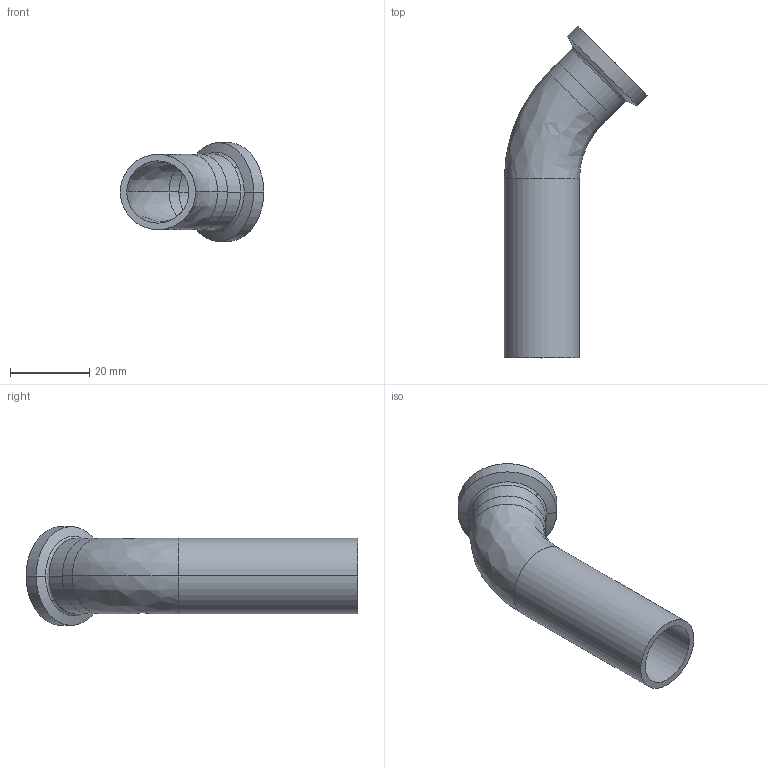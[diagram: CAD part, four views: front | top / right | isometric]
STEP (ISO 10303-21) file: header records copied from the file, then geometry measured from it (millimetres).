
FILE_DESCRIPTION (( 'STEP AP214' ), '1' );
FILE_NAME ('TE2KC6L.75-...STEP', '2016-05-22T06:26:55', ( 'eran' ), ( '' ), 'SwSTEP 2.0', 'SolidWorks 2016', '' );
FILE_SCHEMA (( 'AUTOMOTIVE_DESIGN' ));
Length unit declared in the file: millimetre
Products named in the file (1): TE2KC6L.75-..
Bounding box: 36.32 x 84 x 24.99 mm (x, y, z)
Volume: 7921.6 mm3; surface area: 9772.2 mm2
Topology: 2 solids, 2 shells, 37 faces, 86 edges, 54 vertices
Faces by surface type: cylinder 16, bspline 12, plane 5, cone 4
Entity records: 1265 total; most frequent: CARTESIAN_POINT 370, DIRECTION 196, ORIENTED_EDGE 172, AXIS2_PLACEMENT_3D 88, EDGE_CURVE 86, CIRCLE 62, VERTEX_POINT 54, EDGE_LOOP 42
